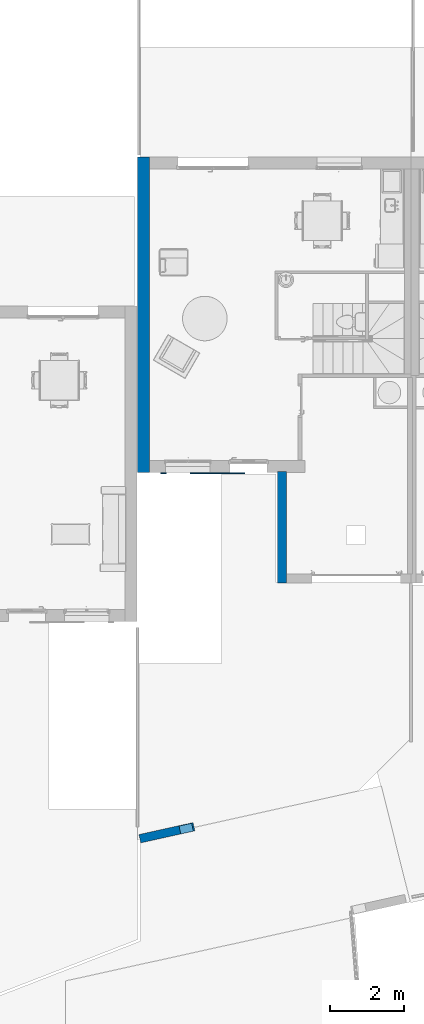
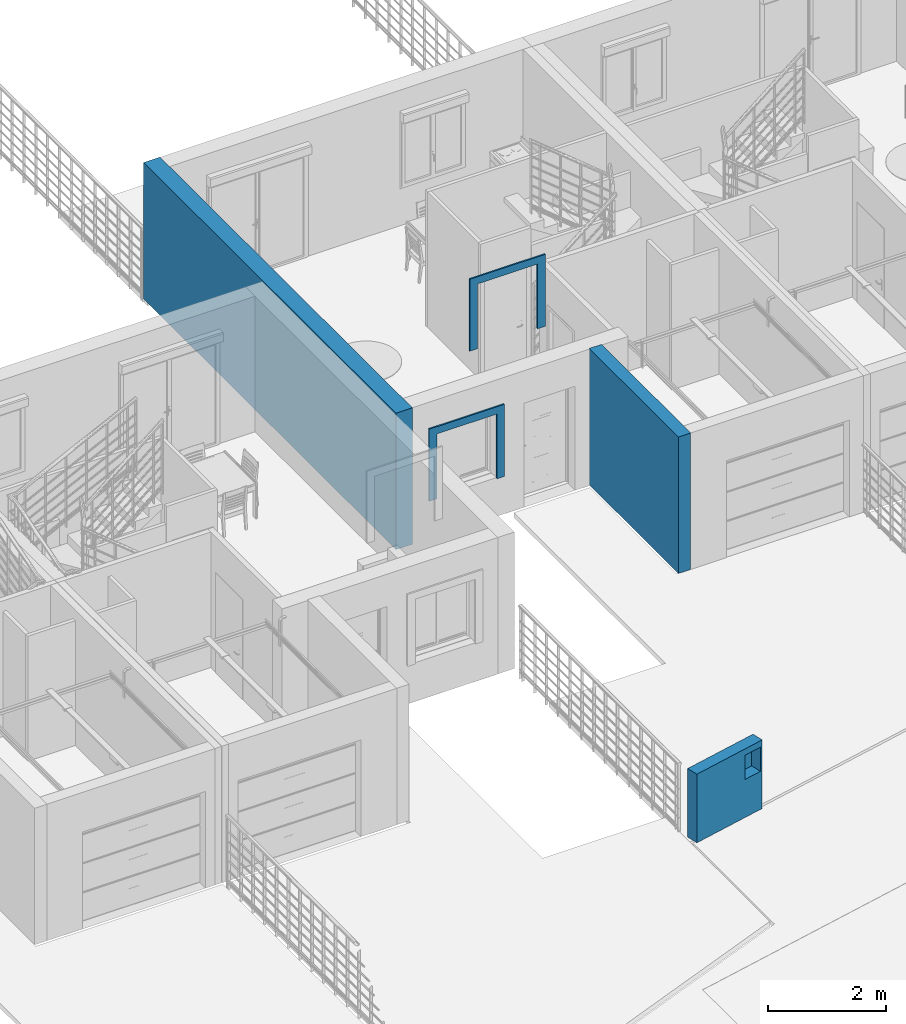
# One storey, part 13 of 30: 5 walls, 3 openings.
"""IFC2X3 building model written with IfcOpenShell, lengths in metres."""

from ifc_helpers import new_model, entity, si_unit, converted_unit, derived_unit, direction, frame, frame_2d, origin, place, context, subcontext, project, spatial, rectangle, extrude, clip, halfspace, material, layer, layer_set, layer_usage, type_object, element, save


model = new_model("IFC2X3")

# Units and contexts
model_context = context("Model", 3, precision=1e-05, world=origin(), true_north=direction((6.12303176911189e-17, 1.0)))
body_context = subcontext(model_context, "Body", "Model", "MODEL_VIEW")
ifc_project = project(units=[si_unit("LENGTHUNIT", "METRE"), si_unit("AREAUNIT", "SQUARE_METRE"), si_unit("VOLUMEUNIT", "CUBIC_METRE"), converted_unit("PLANEANGLEUNIT", "DEGREE", entity("IfcRatioMeasure", 0.0174532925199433), si_unit("PLANEANGLEUNIT", "RADIAN"), dimensions=[0, 0, 0, 0, 0, 0, 0]), si_unit("MASSUNIT", "GRAM", prefix="KILO"), derived_unit("MASSDENSITYUNIT", [(si_unit("MASSUNIT", "GRAM", prefix="KILO"), 1), (si_unit("LENGTHUNIT", "METRE"), -3)]), si_unit("TIMEUNIT", "SECOND"), si_unit("FREQUENCYUNIT", "HERTZ"), si_unit("THERMODYNAMICTEMPERATUREUNIT", "DEGREE_CELSIUS"), derived_unit("THERMALTRANSMITTANCEUNIT", [(si_unit("MASSUNIT", "GRAM", prefix="KILO"), 1), (si_unit("THERMODYNAMICTEMPERATUREUNIT", "KELVIN"), -1), (si_unit("TIMEUNIT", "SECOND"), -3)]), derived_unit("VOLUMETRICFLOWRATEUNIT", [(si_unit("LENGTHUNIT", "METRE"), 3), (si_unit("TIMEUNIT", "SECOND"), -1)]), si_unit("ELECTRICCURRENTUNIT", "AMPERE"), si_unit("ELECTRICVOLTAGEUNIT", "VOLT"), si_unit("POWERUNIT", "WATT"), si_unit("FORCEUNIT", "NEWTON", prefix="KILO"), si_unit("ILLUMINANCEUNIT", "LUX"), si_unit("LUMINOUSFLUXUNIT", "LUMEN"), si_unit("LUMINOUSINTENSITYUNIT", "CANDELA"), derived_unit("USERDEFINED", [(si_unit("MASSUNIT", "GRAM", prefix="KILO"), -1), (si_unit("LENGTHUNIT", "METRE"), -2), (si_unit("TIMEUNIT", "SECOND"), 3), (si_unit("LUMINOUSFLUXUNIT", "LUMEN"), 1)]), derived_unit("LINEARVELOCITYUNIT", [(si_unit("LENGTHUNIT", "METRE"), 1), (si_unit("TIMEUNIT", "SECOND"), -1)]), si_unit("PRESSUREUNIT", "PASCAL"), derived_unit("USERDEFINED", [(si_unit("LENGTHUNIT", "METRE"), -2), (si_unit("MASSUNIT", "GRAM", prefix="KILO"), 1), (si_unit("TIMEUNIT", "SECOND"), -2)])], contexts=[model_context])

# Site, building, storey
site_placement = place(None, origin())
site = spatial("IfcSite", under=ifc_project, at=site_placement, Name="Surface", CompositionType="ELEMENT")
building_placement = place(site_placement, origin())
building = spatial("IfcBuilding", under=site, at=building_placement, CompositionType="ELEMENT")
storey_placement = place(building_placement, origin())
storey = spatial("IfcBuildingStorey", under=building, at=storey_placement, Name="Plan des fondations  Maisons 1 et 2", CompositionType="ELEMENT", Elevation=0.0)

# Walls
ifc_material_1 = material(Name="Enduit blanc cassé2")
ifc_layer_1 = layer(ifc_material_1, 0.02)
ifc_material_2 = material(Name="Parpaing")
ifc_layer_2 = layer(ifc_material_2, 0.2)
ifc_material_3 = material(Name="Isolant")
ifc_layer_3 = layer(ifc_material_3, 0.1)
ifc_layer_set_1 = layer_set([ifc_layer_1, ifc_layer_2, ifc_layer_3], Name="Mur de base:Ext. Parpaing 20 + Isolant 10 enduit blanc cassé")
ifc_layer_usage_1 = layer_usage(ifc_layer_set_1, "AXIS2", "NEGATIVE", 0.16)
wall_type_1 = type_object("IfcWallType", Name="Mur de base:Ext. Parpaing 20 + Isolant 10 enduit blanc cassé", PredefinedType="STANDARD", material=ifc_layer_set_1)
wall_1_placement = place(storey_placement, frame((76.462756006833, 83.9275239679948, 0.0), z_axis=(0.0, 0.0, 1.0), x_axis=(0.0, 1.0, 0.0)))
element("IfcWallStandardCase", 1, at=wall_1_placement, inside=storey, type_object=wall_type_1, material=ifc_layer_usage_1, Name="Mur de base:Ext. Parpaing 20 + Isolant 10 enduit blanc cassé", ObjectType="Mur de base:Ext. Parpaing 20 + Isolant 10 enduit blanc cassé", context=body_context, shape_type="SweptSolid", body=[
    extrude(rectangle(XDim=8.54, YDim=0.319999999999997, at=frame_2d((4.27, -9.85322934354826e-16), x_axis=(-1.0, 0.0))), origin(), (0.0, 0.0, 1.0), 2.82),
])
ifc_material_4 = material(Name="Enduit  gris")
ifc_layer_4 = layer(ifc_material_4, 0.02)
ifc_layer_5 = layer(ifc_material_2, 0.2)
ifc_layer_6 = layer(ifc_material_4, 0.02)
ifc_layer_set_2 = layer_set([ifc_layer_4, ifc_layer_5, ifc_layer_6], Name="Mur de base:Ext. Parpaing 2 + 20 + 2 gris")
ifc_layer_usage_2 = layer_usage(ifc_layer_set_2, "AXIS2", "POSITIVE", -0.12)
wall_type_2 = type_object("IfcWallType", Name="Mur de base:Ext. Parpaing 2 + 20 + 2 gris", PredefinedType="STANDARD", material=ifc_layer_set_2)
wall_2_placement = place(storey_placement, frame((80.2110189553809, 80.9275239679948, 0.0), z_axis=(0.0, 0.0, 1.0), x_axis=(0.0, 1.0, 0.0)))
element("IfcWallStandardCase", 2, at=wall_2_placement, inside=storey, type_object=wall_type_2, material=ifc_layer_usage_2, Name="Mur de base:Ext. Parpaing 2 + 20 + 2 gris", ObjectType="Mur de base:Ext. Parpaing 2 + 20 + 2 gris", context=body_context, shape_type="SweptSolid", body=[
    extrude(rectangle(XDim=3.02000000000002, YDim=0.240000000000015, at=frame_2d((1.51000000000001, 3.78863607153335e-15), x_axis=(-1.0, 0.0))), origin(), (0.0, 0.0, 1.0), 2.82),
])

# Wall, opening
ifc_material_5 = material(Name="Enduit blanc cassé")
ifc_layer_7 = layer(ifc_material_5, 0.01)
ifc_layer_8 = layer(ifc_material_2, 0.01)
ifc_layer_9 = layer(ifc_material_5, 0.01)
ifc_layer_set_3 = layer_set([ifc_layer_7, ifc_layer_8, ifc_layer_9], Name="Mur de base:modénateurs ep 2 cm gris")
ifc_layer_usage_3 = layer_usage(ifc_layer_set_3, "AXIS2", "POSITIVE", -0.015)
wall_type_3 = type_object("IfcWallType", Name="Mur de base:modénateurs ep 2 cm gris", PredefinedType="STANDARD", material=ifc_layer_set_3)
wall_3_placement = place(storey_placement, frame((78.407756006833, 83.9075239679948, 0.799999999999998), z_axis=(0.0, 0.0, 1.0), x_axis=(-1.0, 0.0, 0.0)))
wall_3 = element("IfcWallStandardCase", 3, at=wall_3_placement, inside=storey, type_object=wall_type_3, material=ifc_layer_usage_3, Name="Mur de base:modénateurs ep 2 cm gris", ObjectType="Mur de base:modénateurs ep 2 cm gris", context=body_context, shape_type="SweptSolid", body=[
    extrude(rectangle(XDim=1.47499999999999, YDim=0.0299999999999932, at=frame_2d((0.737499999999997, 0.0), x_axis=(-1.0, 0.0))), origin(), (0.0, 0.0, 1.0), 1.48912543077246),
])
opening_1_placement = place(wall_3_placement, origin())
element("IfcOpeningElement", 4, at=opening_1_placement, cuts=wall_3, Name="Mur de base:modénateurs ep 2 cm gris", ObjectType="Opening", context=body_context, shape_type="SweptSolid", body=[
    extrude(rectangle(XDim=1.33912543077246, YDim=1.17499999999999, at=frame_2d((0.0, 0.0), x_axis=(0.0, 1.0))), frame((0.737499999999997, 0.0149999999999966, 0.669562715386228), z_axis=(0.0, -1.0, 0.0), x_axis=(1.0, 0.0, 0.0)), (0.0, 0.0, 1.0), 0.03),
])

ifc_layer_usage_4 = layer_usage(ifc_layer_set_3, "AXIS2", "POSITIVE", -0.015)
wall_4_placement = place(storey_placement, frame((79.201172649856, 83.9075239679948, 3.62087456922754), z_axis=(0.0, 0.0, 1.0), x_axis=(-1.0, 0.0, 0.0)))
wall_4 = element("IfcWallStandardCase", 5, at=wall_4_placement, inside=storey, type_object=wall_type_3, material=ifc_layer_usage_4, Name="Mur de base:modénateurs ep 2 cm gris", ObjectType="Mur de base:modénateurs ep 2 cm gris", context=body_context, shape_type="Clipping", body=[
    clip(extrude(rectangle(XDim=1.47499999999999, YDim=0.0299999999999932, at=frame_2d((0.737499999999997, 0.0), x_axis=(-1.0, 0.0))), origin(), (0.0, 0.0, 1.0), 1.48912543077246), halfspace(frame((1.47499999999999, -0.0149999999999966, 0.0), z_axis=(0.0, 0.0, -1.0), x_axis=(0.0, 1.0, 0.0)), False)),
])
opening_2_placement = place(wall_4_placement, origin())
element("IfcOpeningElement", 6, at=opening_2_placement, cuts=wall_4, Name="Mur de base:modénateurs ep 2 cm gris", ObjectType="Opening", context=body_context, shape_type="SweptSolid", body=[
    extrude(rectangle(XDim=1.33912543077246, YDim=1.17499999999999, at=frame_2d((0.0, 2.77555756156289e-16), x_axis=(0.0, 1.0))), frame((0.737499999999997, 0.0149999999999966, 0.669562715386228), z_axis=(0.0, -1.0, 0.0), x_axis=(1.0, 0.0, 0.0)), (0.0, 0.0, 1.0), 0.03),
])

ifc_layer_10 = layer(ifc_material_1, 0.015)
ifc_layer_11 = layer(ifc_material_2, 0.2)
ifc_layer_12 = layer(ifc_material_1, 0.015)
ifc_layer_set_4 = layer_set([ifc_layer_10, ifc_layer_11, ifc_layer_12], Name="Mur de base:Ext. Parpaing 20 + 2 x 1.5")
ifc_layer_usage_5 = layer_usage(ifc_layer_set_4, "AXIS2", "NEGATIVE", 0.115)
wall_type_4 = type_object("IfcWallType", Name="Mur de base:Ext. Parpaing 20 + 2 x 1.5", PredefinedType="STANDARD", material=ifc_layer_set_4)
wall_5_placement = place(building_placement, frame((76.3624629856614, 74.0005027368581, 0.0), z_axis=(0.0, 0.0, 1.0), x_axis=(0.976296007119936, 0.216439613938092, 0.0)))
wall_5 = element("IfcWallStandardCase", 7, at=wall_5_placement, inside=storey, type_object=wall_type_4, material=ifc_layer_usage_5, Name="Mur de base:Ext. Parpaing 20 + 2 x 1.5", ObjectType="Mur de base:Ext. Parpaing 20 + 2 x 1.5", context=body_context, shape_type="SweptSolid", body=[
    extrude(rectangle(XDim=1.50000000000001, YDim=0.229999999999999, at=frame_2d((0.750000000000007, -1.41553435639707e-15), x_axis=(-1.0, 0.0))), origin(), (0.0, 0.0, 1.0), 1.41792877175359),
])
opening_3_placement = place(wall_5_placement, origin())
element("IfcOpeningElement", 8, at=opening_3_placement, cuts=wall_5, Name="Mur de base:Ext. Parpaing 20 + 2 x 1.5", ObjectType="Recess", context=body_context, shape_type="SweptSolid", body=[
    extrude(rectangle(XDim=0.500000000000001, YDim=0.350000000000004, at=frame_2d((0.0, 9.29811783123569e-16), x_axis=(1.0, 0.0))), frame((1.285, -0.115000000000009, 1.03740197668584), z_axis=(0.0, 1.0, 0.0), x_axis=(0.0, 0.0, -1.0)), (0.0, 0.0, 1.0), 0.220000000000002),
])

save(model, "model.ifc")
